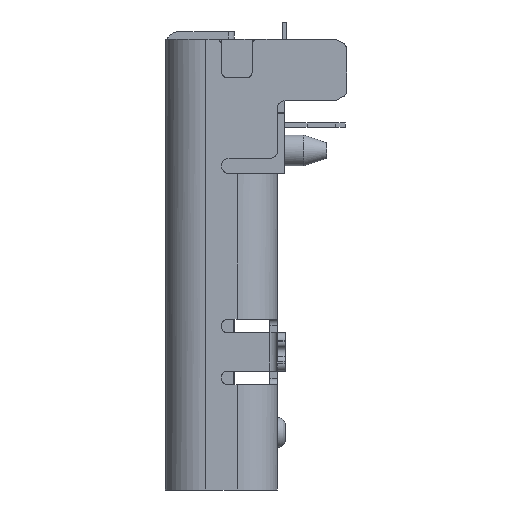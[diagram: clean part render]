
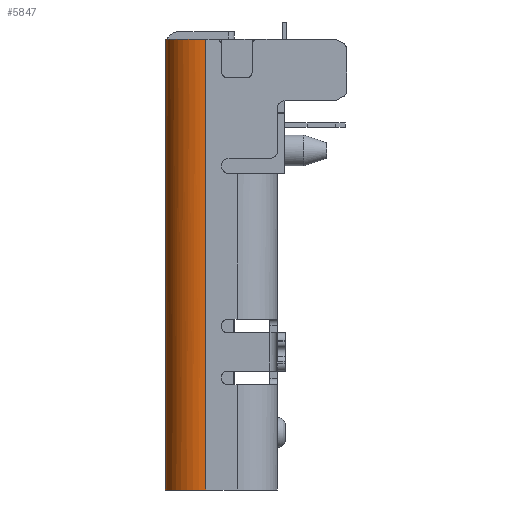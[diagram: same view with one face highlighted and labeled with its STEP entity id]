
A CAD part, left-side view. The second image highlights one B-rep face of the part: STEP entity #5847.
In plain terms, the highlighted free-form (B-spline) face has degree [1, 3] with [2, 4] control points.
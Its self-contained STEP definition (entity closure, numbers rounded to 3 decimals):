
#469 = CARTESIAN_POINT ( 'NONE',  ( -4.375, 0.686, 11.75 ) ) ;
#684 = CARTESIAN_POINT ( 'NONE',  ( -3.94, 1.46, 11.75 ) ) ;
#1410 = CARTESIAN_POINT ( 'NONE',  ( -4.375, 0.686, 0. ) ) ;
#2489 = CARTESIAN_POINT ( 'NONE',  ( -3.325, 1.46, 11.75 ) ) ;
#2904 = CARTESIAN_POINT ( 'NONE',  ( -4.375, 0.41, 11.75 ) ) ;
#3037 = CARTESIAN_POINT ( 'NONE',  ( -3.325, 1.46, 0. ) ) ;
#3313 = CARTESIAN_POINT ( 'NONE',  ( -3.325, 1.46, 11.75 ) ) ;
#3517 = CARTESIAN_POINT ( 'NONE',  ( -3.325, 1.46, 0. ) ) ;
#3599 = CARTESIAN_POINT ( 'NONE',  ( -3.325, 1.46, 11.75 ) ) ;
#4357 = CARTESIAN_POINT ( 'NONE',  ( -3.325, 1.46, 0. ) ) ;
#4909 =( BOUNDED_SURFACE ( )  B_SPLINE_SURFACE ( 1, 3, ( 
 ( #5054, #10843, #684, #2489 ),
 ( #13880, #6578, #18146, #12457 ) ),
 .UNSPECIFIED., .F., .F., .F. ) 
 B_SPLINE_SURFACE_WITH_KNOTS ( ( 2, 2 ),
 ( 4, 4 ),
 ( 0., 1. ),
 ( 0., 1. ),
 .UNSPECIFIED. ) 
 GEOMETRIC_REPRESENTATION_ITEM ( )  RATIONAL_B_SPLINE_SURFACE ( (
 ( 1., 0.805, 0.805, 1.),
 ( 1., 0.805, 0.805, 1.) ) ) 
 REPRESENTATION_ITEM ( '' )  SURFACE ( )  );
#5054 = CARTESIAN_POINT ( 'NONE',  ( -4.375, 0.41, 11.75 ) ) ;
#5381 = VERTEX_POINT ( 'NONE', #7654 ) ;
#5775 = CARTESIAN_POINT ( 'NONE',  ( -3.601, 1.46, 0. ) ) ;
#5847 = ADVANCED_FACE ( 'NONE', ( #11135 ), #4909, .F. ) ;
#6171 = CARTESIAN_POINT ( 'NONE',  ( -3.872, 1.347, 11.75 ) ) ;
#6262 = CARTESIAN_POINT ( 'NONE',  ( -4.375, 0.41, 11.75 ) ) ;
#6342 = VERTEX_POINT ( 'NONE', #2904 ) ;
#6568 = ORIENTED_EDGE ( 'NONE', *, *, #13620, .T. ) ;
#6578 = CARTESIAN_POINT ( 'NONE',  ( -4.375, 1.025, 0. ) ) ;
#7207 = CARTESIAN_POINT ( 'NONE',  ( -4.262, 0.957, 0. ) ) ;
#7654 = CARTESIAN_POINT ( 'NONE',  ( -4.375, 0.41, 0. ) ) ;
#9241 = ORIENTED_EDGE ( 'NONE', *, *, #16219, .F. ) ;
#9999 = VERTEX_POINT ( 'NONE', #3037 ) ;
#10445 = ORIENTED_EDGE ( 'NONE', *, *, #16786, .T. ) ;
#10843 = CARTESIAN_POINT ( 'NONE',  ( -4.375, 1.025, 11.75 ) ) ;
#11135 = FACE_OUTER_BOUND ( 'NONE', #18677, .T. ) ;
#11192 = CARTESIAN_POINT ( 'NONE',  ( -4.375, 0.41, 11.75 ) ) ;
#11296 = CARTESIAN_POINT ( 'NONE',  ( -4.375, 0.41, 0. ) ) ;
#11623 = B_SPLINE_CURVE_WITH_KNOTS ( 'NONE', 1,
 ( #15544, #11192 ),
 .UNSPECIFIED., .F., .F.,
 ( 2, 2 ),
 ( -1., 0. ),
 .UNSPECIFIED. ) ;
#12457 = CARTESIAN_POINT ( 'NONE',  ( -3.325, 1.46, 0. ) ) ;
#13381 = CARTESIAN_POINT ( 'NONE',  ( -3.601, 1.46, 11.75 ) ) ;
#13475 = CARTESIAN_POINT ( 'NONE',  ( -4.262, 0.957, 11.75 ) ) ;
#13620 = EDGE_CURVE ( 'NONE', #5381, #6342, #11623, .T. ) ;
#13880 = CARTESIAN_POINT ( 'NONE',  ( -4.375, 0.41, 0. ) ) ;
#15544 = CARTESIAN_POINT ( 'NONE',  ( -4.375, 0.41, 0. ) ) ;
#16004 = B_SPLINE_CURVE_WITH_KNOTS ( 'NONE', 3,
 ( #11296, #1410, #7207, #18780, #5775, #4357 ),
 .UNSPECIFIED., .F., .F.,
 ( 4, 2, 4 ),
 ( 1.571, 2.356, 3.142 ),
 .UNSPECIFIED. ) ;
#16219 = EDGE_CURVE ( 'NONE', #5381, #9999, #16004, .T. ) ;
#16332 = CARTESIAN_POINT ( 'NONE',  ( -3.325, 1.46, 11.75 ) ) ;
#16786 = EDGE_CURVE ( 'NONE', #17225, #9999, #18686, .T. ) ;
#17079 = B_SPLINE_CURVE_WITH_KNOTS ( 'NONE', 3,
 ( #3313, #13381, #6171, #13475, #469, #6262 ),
 .UNSPECIFIED., .F., .F.,
 ( 4, 2, 4 ),
 ( 1.571, 2.356, 3.142 ),
 .UNSPECIFIED. ) ;
#17179 = EDGE_CURVE ( 'NONE', #17225, #6342, #17079, .T. ) ;
#17225 = VERTEX_POINT ( 'NONE', #3599 ) ;
#18146 = CARTESIAN_POINT ( 'NONE',  ( -3.94, 1.46, 0. ) ) ;
#18186 = ORIENTED_EDGE ( 'NONE', *, *, #17179, .F. ) ;
#18677 = EDGE_LOOP ( 'NONE', ( #6568, #18186, #10445, #9241 ) ) ;
#18686 = B_SPLINE_CURVE_WITH_KNOTS ( 'NONE', 1,
 ( #16332, #3517 ),
 .UNSPECIFIED., .F., .F.,
 ( 2, 2 ),
 ( -1., 0. ),
 .UNSPECIFIED. ) ;
#18780 = CARTESIAN_POINT ( 'NONE',  ( -3.872, 1.347, 0. ) ) ;
